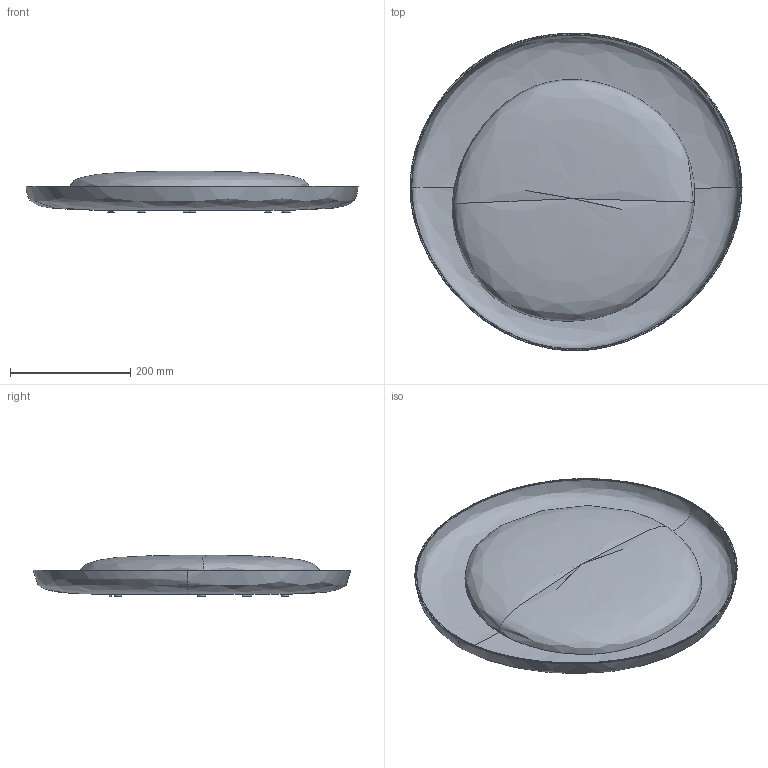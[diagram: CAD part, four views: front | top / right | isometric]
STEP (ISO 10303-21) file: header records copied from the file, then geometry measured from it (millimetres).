
FILE_DESCRIPTION (( 'STEP AP214' ), '1' );
FILE_NAME ('196_MINI_W_C_LD_3D.STEP', '2021-04-29T07:35:52', ( '' ), ( '' ), 'SwSTEP 2.0', 'SolidWorks 2021', '' );
FILE_SCHEMA (( 'AUTOMOTIVE_DESIGN' ));
Length unit declared in the file: millimetre
Products named in the file (1): 196_MINI_W_C_LD_3D
Bounding box: 551.38 x 527.38 x 68.96 mm (x, y, z)
Volume: 1193496.3 mm3; surface area: 670065.4 mm2
Topology: 3 solids, 3 shells, 216 faces, 531 edges, 327 vertices
Faces by surface type: bspline 120, plane 44, cylinder 32, cone 12, sphere 6, torus 2
Entity records: 25732 total; most frequent: CARTESIAN_POINT 19343, ORIENTED_EDGE 1040, EDGE_CURVE 520, DIRECTION 487, VERTEX_POINT 322, B_SPLINE_CURVE_WITH_KNOTS 304, EDGE_LOOP 236, UNCERTAINTY_MEASURE_WITH_UNIT 221
